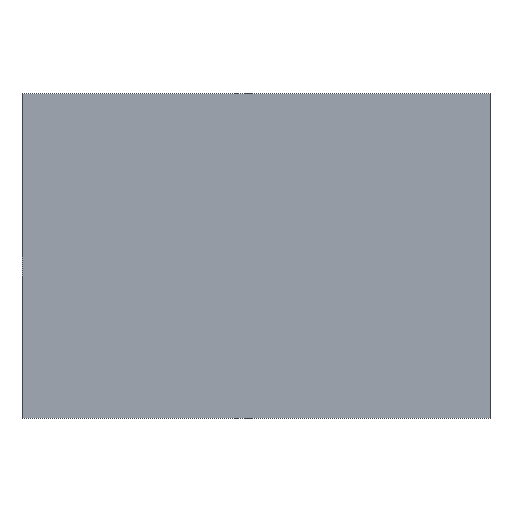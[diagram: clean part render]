
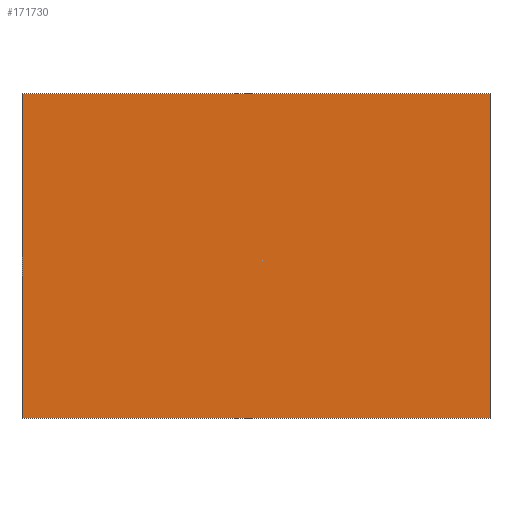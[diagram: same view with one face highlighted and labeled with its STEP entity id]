
A CAD part, left-side view. The second image highlights one B-rep face of the part: STEP entity #171730.
In plain terms, the highlighted planar face has unit normal (-1, 0, 0) as drawn and (0, 0, 1) by its records, which use the part's own axes.
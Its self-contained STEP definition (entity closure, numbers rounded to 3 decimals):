
#170270=CARTESIAN_POINT('',(1663.,2582.,18.));
#170280=VERTEX_POINT('',#170270);
#170330=CARTESIAN_POINT('',(-1000.,2582.,18.));
#170340=DIRECTION('',(1.,0.,0.));
#170350=VECTOR('',#170340,1.);
#170360=LINE('',#170330,#170350);
#170370=CARTESIAN_POINT('',(-137.,2582.,18.));
#170380=VERTEX_POINT('',#170370);
#170390=EDGE_CURVE('',#170380,#170280,#170360,.T.);
#171310=CARTESIAN_POINT('',(-137.,-18.,
18.));
#171320=VERTEX_POINT('',#171310);
#171350=CARTESIAN_POINT('',(-1000.,-18.,
18.));
#171360=DIRECTION('',(1.,0.,0.));
#171370=VECTOR('',#171360,1.);
#171380=LINE('',#171350,#171370);
#171390=CARTESIAN_POINT('',(1663.,-18.,
18.));
#171400=VERTEX_POINT('',#171390);
#171410=EDGE_CURVE('',#171320,#171400,#171380,.T.);
#171520=CARTESIAN_POINT('',(-1000.,-3.,
18.));
#171530=DIRECTION('',(0.,0.,1.));
#171540=DIRECTION('',(-1.,0.,0.));
#171550=AXIS2_PLACEMENT_3D('',#171520,#171530,#171540);
#171560=PLANE('',#171550);
#171570=CARTESIAN_POINT('',(-137.,-18.,
18.));
#171580=DIRECTION('',(0.,1.,0.));
#171590=VECTOR('',#171580,1.);
#171600=LINE('',#171570,#171590);
#171610=EDGE_CURVE('',#171320,#170380,#171600,.T.);
#171620=ORIENTED_EDGE('',*,*,#171610,.F.);
#171630=ORIENTED_EDGE('',*,*,#170390,.F.);
#171640=CARTESIAN_POINT('',(1663.,-3.,
18.));
#171650=DIRECTION('',(0.,1.,0.));
#171660=VECTOR('',#171650,1.);
#171670=LINE('',#171640,#171660);
#171680=EDGE_CURVE('',#171400,#170280,#171670,.T.);
#171690=ORIENTED_EDGE('',*,*,#171680,.T.);
#171700=ORIENTED_EDGE('',*,*,#171410,.T.);
#171710=EDGE_LOOP('',(#171700,#171690,#171630,#171620));
#171720=FACE_OUTER_BOUND('',#171710,.T.);
#171730=ADVANCED_FACE('',(#171720),#171560,.T.);
